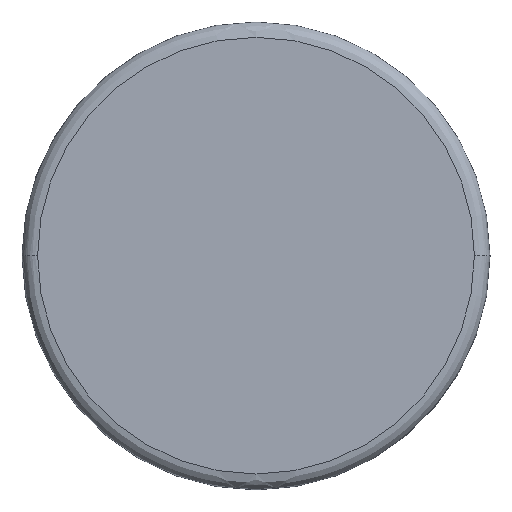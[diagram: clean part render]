
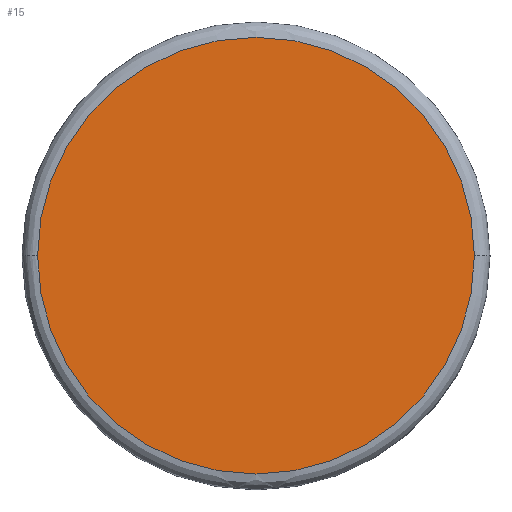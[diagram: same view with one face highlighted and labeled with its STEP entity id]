
A CAD part, top view. The second image highlights one B-rep face of the part: STEP entity #15.
In plain terms, the highlighted planar face has unit normal (0, 0.019, 1).
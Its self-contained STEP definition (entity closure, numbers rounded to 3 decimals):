
#15=ADVANCED_FACE('',(#23),#118,.T.);
#23=FACE_OUTER_BOUND('',#31,.T.);
#31=EDGE_LOOP('',(#42,#43));
#42=ORIENTED_EDGE('',*,*,#77,.F.);
#43=ORIENTED_EDGE('',*,*,#70,.F.);
#70=EDGE_CURVE('',#107,#112,#85,.T.);
#77=EDGE_CURVE('',#112,#107,#91,.T.);
#85=TRIMMED_CURVE($,#97,(#344),(#345),.T.,.CARTESIAN.);
#91=TRIMMED_CURVE($,#103,(#364),(#365),.T.,.CARTESIAN.);
#97=CIRCLE('',#217,196.);
#103=CIRCLE('',#223,196.);
#107=VERTEX_POINT('',#325);
#112=VERTEX_POINT('',#330);
#118=PLANE('',#211);
#211=AXIS2_PLACEMENT_3D('',#261,#230,$);
#217=AXIS2_PLACEMENT_3D($,#343,#239,#240);
#223=AXIS2_PLACEMENT_3D($,#363,#251,#252);
#230=DIRECTION('',(0.,0.019,1.));
#239=DIRECTION('',(0.,-0.019,-1.));
#240=DIRECTION('',(1.,0.,0.));
#251=DIRECTION('',(0.,-0.019,-1.));
#252=DIRECTION('',(-1.,0.,0.));
#261=CARTESIAN_POINT('',(4254.422,4275.349,15.986));
#325=CARTESIAN_POINT('',(4187.922,4537.802,11.02));
#330=CARTESIAN_POINT('',(3795.922,4537.802,11.02));
#343=CARTESIAN_POINT('',(3991.922,4537.802,11.02));
#344=CARTESIAN_POINT('',(4187.922,4537.802,11.02));
#345=CARTESIAN_POINT('',(3795.922,4537.802,11.02));
#363=CARTESIAN_POINT('',(3991.922,4537.802,11.02));
#364=CARTESIAN_POINT('',(3795.922,4537.802,11.02));
#365=CARTESIAN_POINT('',(4187.922,4537.802,11.02));
